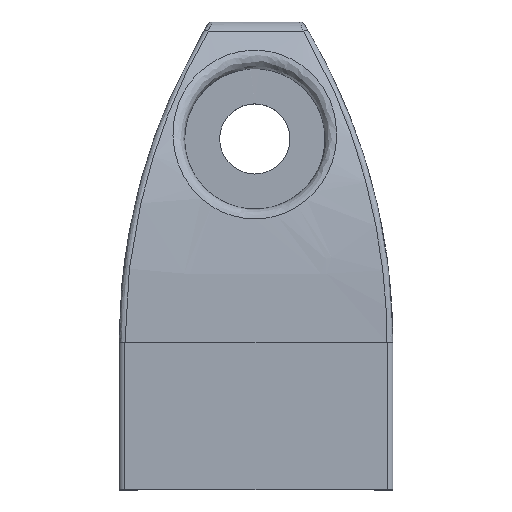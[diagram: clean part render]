
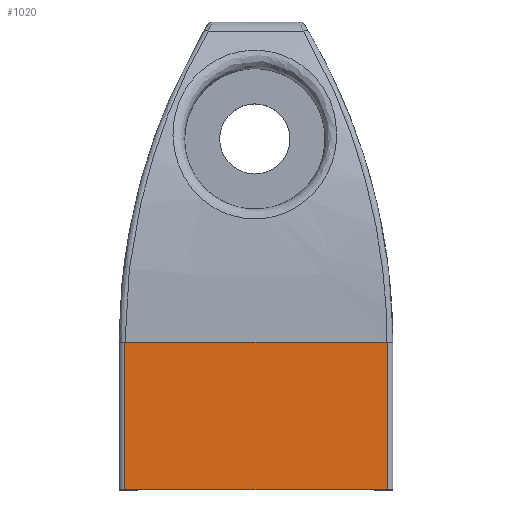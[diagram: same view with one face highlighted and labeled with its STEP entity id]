
A CAD part, top view. The second image highlights one B-rep face of the part: STEP entity #1020.
In plain terms, the highlighted planar face has unit normal (0, 0, 1).
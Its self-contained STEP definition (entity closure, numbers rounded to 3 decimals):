
#74=PLANE('',#1123);
#118=FACE_OUTER_BOUND('',#177,.T.);
#177=EDGE_LOOP('',(#808,#809,#810,#811));
#274=LINE('',#2303,#356);
#280=LINE('',#2429,#362);
#281=LINE('',#2431,#363);
#282=LINE('',#2432,#364);
#356=VECTOR('',#1281,10.);
#362=VECTOR('',#1303,10.);
#363=VECTOR('',#1306,10.);
#364=VECTOR('',#1307,10.);
#470=VERTEX_POINT('',#2244);
#472=VERTEX_POINT('',#2301);
#475=VERTEX_POINT('',#2414);
#476=VERTEX_POINT('',#2425);
#591=EDGE_CURVE('',#472,#470,#274,.T.);
#603=EDGE_CURVE('',#475,#476,#280,.T.);
#604=EDGE_CURVE('',#476,#472,#281,.T.);
#605=EDGE_CURVE('',#470,#475,#282,.T.);
#808=ORIENTED_EDGE('',*,*,#591,.F.);
#809=ORIENTED_EDGE('',*,*,#604,.F.);
#810=ORIENTED_EDGE('',*,*,#603,.F.);
#811=ORIENTED_EDGE('',*,*,#605,.F.);
#1020=ADVANCED_FACE('',(#118),#74,.T.);
#1123=AXIS2_PLACEMENT_3D('',#2430,#1304,#1305);
#1281=DIRECTION('',(0.,1.,0.));
#1303=DIRECTION('',(0.,-1.,0.));
#1304=DIRECTION('center_axis',(0.,0.,1.));
#1305=DIRECTION('ref_axis',(1.,0.,0.));
#1306=DIRECTION('',(-1.,0.,0.));
#1307=DIRECTION('',(1.,0.,0.));
#2244=CARTESIAN_POINT('',(-1.1,12.592,11.8));
#2301=CARTESIAN_POINT('',(-1.1,0.,11.8));
#2303=CARTESIAN_POINT('',(-1.1,0.,11.8));
#2414=CARTESIAN_POINT('',(21.3,12.592,11.8));
#2425=CARTESIAN_POINT('',(21.3,0.,11.8));
#2429=CARTESIAN_POINT('',(21.3,0.,11.8));
#2430=CARTESIAN_POINT('Origin',(-1.6,0.,11.8));
#2431=CARTESIAN_POINT('',(21.8,0.,11.8));
#2432=CARTESIAN_POINT('',(10.1,12.592,11.8));
